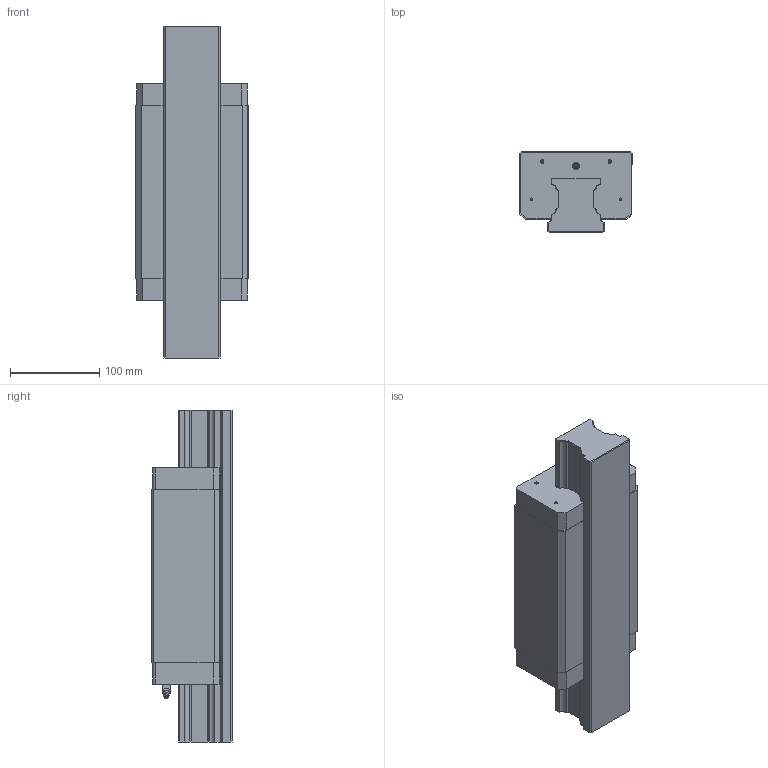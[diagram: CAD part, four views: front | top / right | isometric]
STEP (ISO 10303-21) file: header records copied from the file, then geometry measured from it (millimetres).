
FILE_DESCRIPTION((''),'2;1');
FILE_NAME('KWC_065_SLS_CS__ASM','2021-10-14T07:10:31',('ac91sw'),(''),'CREO PARAMETRIC BY PTC INC, 2020044','CREO PARAMETRIC BY PTC INC, 2020044','');
FILE_SCHEMA(('AUTOMOTIVE_DESIGN { 1 0 10303 214 1 1 1 1 }'));
Length unit declared in the file: millimetre
Products named in the file (7): KWC_065_SLS_CS__SKEL; R169560041; R160160012_Z; KWC_065_SLS_CS__PSF; R343702601_Z; R341700702_Z; KWC_065_SLS_CS__ASM
Assembly tree (7 placements, depth 2):
  KWC_065_SLS_CS__ASM
    KWC_065_SLS_CS__SKEL
    R169560041
    R160160012_Z  x2
    KWC_065_SLS_CS__PSF
    R343702601_Z
    R341700702_Z
Bounding box: 126 x 90 x 373 mm (x, y, z)
Volume: 2530144.9 mm3; surface area: 307790.5 mm2
Topology: 6 solids, 15 shells, 303 faces, 763 edges, 467 vertices
Faces by surface type: plane 159, cylinder 82, cone 58, bspline 2, sphere 2
Entity records: 13435 total; most frequent: CARTESIAN_POINT 1537, DIRECTION 1291, ORIENTED_EDGE 1170, PROPERTY_DEFINITION 820, REPRESENTATION 812, PROPERTY_DEFINITION_REPRESENTATION 812, DESCRIPTIVE_REPRESENTATION_ITEM 757, GENERAL_PROPERTY 752
